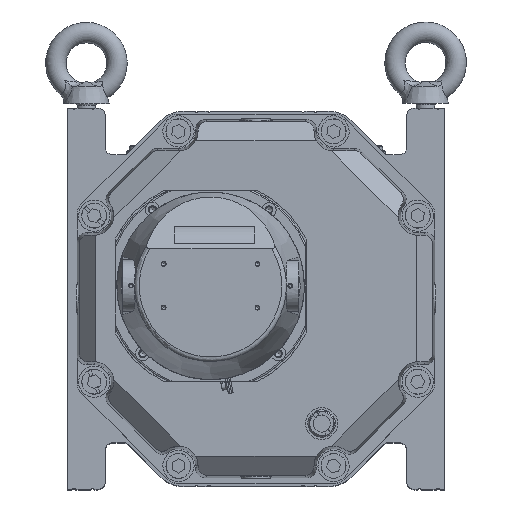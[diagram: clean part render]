
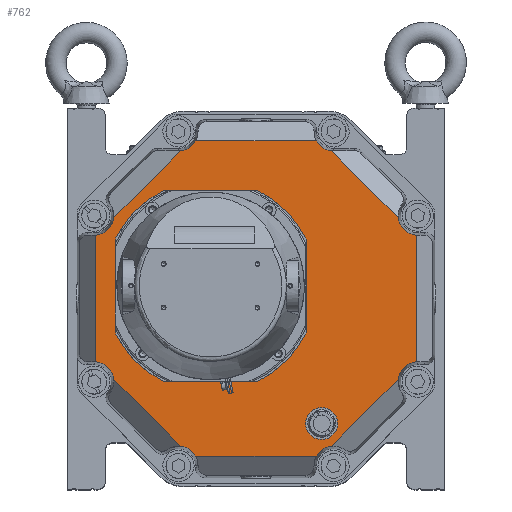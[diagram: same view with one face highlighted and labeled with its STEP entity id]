
A CAD part, top view. The second image highlights one B-rep face of the part: STEP entity #762.
In plain terms, the highlighted planar face has unit normal (0, 0, 1).
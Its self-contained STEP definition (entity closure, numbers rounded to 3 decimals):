
#762=ADVANCED_FACE('',(#14472,#14474,#14476),#14478,.T.);
#14472=FACE_BOUND('',#14473,.T.);
#14473=EDGE_LOOP('',(#32710,#32711,#32712,#32713,#32714,#32715,#32716,#32717,#32718,
#32719,#32720,#32721,#32722,#32723,#32724,#32725));
#14474=FACE_BOUND('',#14475,.T.);
#14475=EDGE_LOOP('',(#32726));
#14476=FACE_BOUND('',#14477,.T.);
#14477=EDGE_LOOP('',(#32727,#32728,#32729,#32730,#32731,#32732,#32733,#32734));
#14478=PLANE('',#14479);
#14479=AXIS2_PLACEMENT_3D('',#14480,#14481,#14482);
#14480=CARTESIAN_POINT('',(0.,0.,188.9));
#14481=DIRECTION('',(0.,0.,1.));
#14482=DIRECTION('',(0.,-1.,0.));
#32710=ORIENTED_EDGE('',*,*,#40564,.F.);
#32711=ORIENTED_EDGE('',*,*,#40565,.T.);
#32712=ORIENTED_EDGE('',*,*,#40566,.F.);
#32713=ORIENTED_EDGE('',*,*,#40567,.T.);
#32714=ORIENTED_EDGE('',*,*,#40568,.T.);
#32715=ORIENTED_EDGE('',*,*,#40569,.T.);
#32716=ORIENTED_EDGE('',*,*,#40570,.T.);
#32717=ORIENTED_EDGE('',*,*,#40571,.T.);
#32718=ORIENTED_EDGE('',*,*,#40572,.F.);
#32719=ORIENTED_EDGE('',*,*,#40573,.T.);
#32720=ORIENTED_EDGE('',*,*,#40574,.F.);
#32721=ORIENTED_EDGE('',*,*,#40575,.T.);
#32722=ORIENTED_EDGE('',*,*,#40576,.T.);
#32723=ORIENTED_EDGE('',*,*,#40577,.T.);
#32724=ORIENTED_EDGE('',*,*,#40578,.T.);
#32725=ORIENTED_EDGE('',*,*,#40579,.T.);
#32726=ORIENTED_EDGE('',*,*,#40580,.F.);
#32727=ORIENTED_EDGE('',*,*,#40428,.F.);
#32728=ORIENTED_EDGE('',*,*,#40558,.F.);
#32729=ORIENTED_EDGE('',*,*,#40556,.F.);
#32730=ORIENTED_EDGE('',*,*,#40554,.F.);
#32731=ORIENTED_EDGE('',*,*,#40552,.F.);
#32732=ORIENTED_EDGE('',*,*,#40550,.F.);
#32733=ORIENTED_EDGE('',*,*,#40424,.F.);
#32734=ORIENTED_EDGE('',*,*,#40559,.F.);
#40424=EDGE_CURVE('',#44038,#44040,#44041,.T.);
#40428=EDGE_CURVE('',#44044,#44046,#44047,.T.);
#40550=EDGE_CURVE('',#44040,#44250,#44251,.T.);
#40552=EDGE_CURVE('',#44250,#44253,#44254,.T.);
#40554=EDGE_CURVE('',#44253,#44256,#44257,.T.);
#40556=EDGE_CURVE('',#44256,#44259,#44260,.T.);
#40558=EDGE_CURVE('',#44259,#44044,#44262,.T.);
#40559=EDGE_CURVE('',#44046,#44038,#44263,.T.);
#40564=EDGE_CURVE('',#44272,#44273,#44274,.T.);
#40565=EDGE_CURVE('',#44272,#44275,#44276,.T.);
#40566=EDGE_CURVE('',#44277,#44275,#44278,.T.);
#40567=EDGE_CURVE('',#44277,#44279,#44280,.T.);
#40568=EDGE_CURVE('',#44279,#44281,#44282,.T.);
#40569=EDGE_CURVE('',#44281,#44283,#44284,.T.);
#40570=EDGE_CURVE('',#44283,#44285,#44286,.T.);
#40571=EDGE_CURVE('',#44285,#44287,#44288,.T.);
#40572=EDGE_CURVE('',#44289,#44287,#44290,.T.);
#40573=EDGE_CURVE('',#44289,#44291,#44292,.T.);
#40574=EDGE_CURVE('',#44293,#44291,#44294,.T.);
#40575=EDGE_CURVE('',#44293,#44295,#44296,.T.);
#40576=EDGE_CURVE('',#44295,#44297,#44298,.T.);
#40577=EDGE_CURVE('',#44297,#44299,#44300,.T.);
#40578=EDGE_CURVE('',#44299,#44301,#44302,.T.);
#40579=EDGE_CURVE('',#44301,#44273,#44303,.T.);
#40580=EDGE_CURVE('',#44304,#44304,#44305,.T.);
#44038=VERTEX_POINT('',#50559);
#44040=VERTEX_POINT('',#50563);
#44041=LINE('',#50564,#50565);
#44044=VERTEX_POINT('',#50573);
#44046=VERTEX_POINT('',#50577);
#44047=LINE('',#50578,#50579);
#44250=VERTEX_POINT('',#52849);
#44251=CIRCLE('',#52850,68.052);
#44253=VERTEX_POINT('',#52857);
#44254=LINE('',#52858,#52859);
#44256=VERTEX_POINT('',#52864);
#44257=CIRCLE('',#52865,68.052);
#44259=VERTEX_POINT('',#52872);
#44260=LINE('',#52873,#52874);
#44262=CIRCLE('',#52879,68.052);
#44263=CIRCLE('',#52883,68.052);
#44272=VERTEX_POINT('',#53311);
#44273=VERTEX_POINT('',#53312);
#44274=CIRCLE('',#53313,12.637);
#44275=VERTEX_POINT('',#53317);
#44276=LINE('',#53318,#53319);
#44277=VERTEX_POINT('',#53321);
#44278=CIRCLE('',#53322,12.637);
#44279=VERTEX_POINT('',#53326);
#44280=LINE('',#53327,#53328);
#44281=VERTEX_POINT('',#53330);
#44282=CIRCLE('',#53331,12.637);
#44283=VERTEX_POINT('',#53335);
#44284=LINE('',#53336,#53337);
#44285=VERTEX_POINT('',#53339);
#44286=CIRCLE('',#53340,12.637);
#44287=VERTEX_POINT('',#53344);
#44288=LINE('',#53345,#53346);
#44289=VERTEX_POINT('',#53348);
#44290=CIRCLE('',#53349,12.637);
#44291=VERTEX_POINT('',#53353);
#44292=LINE('',#53354,#53355);
#44293=VERTEX_POINT('',#53357);
#44294=CIRCLE('',#53358,12.637);
#44295=VERTEX_POINT('',#53362);
#44296=LINE('',#53363,#53364);
#44297=VERTEX_POINT('',#53366);
#44298=CIRCLE('',#53367,12.637);
#44299=VERTEX_POINT('',#53371);
#44300=LINE('',#53372,#53373);
#44301=VERTEX_POINT('',#53375);
#44302=CIRCLE('',#53376,12.637);
#44303=LINE('',#53380,#53381);
#44304=VERTEX_POINT('',#53383);
#44305=CIRCLE('',#53384,10.25);
#50559=CARTESIAN_POINT('',(-90.052,38.062,188.9));
#50563=CARTESIAN_POINT('',(-90.052,-22.062,188.9));
#50564=CARTESIAN_POINT('',(-90.052,38.062,188.9));
#50565=VECTOR('',#50566,1.);
#50566=DIRECTION('',(0.,-1.,0.));
#50573=CARTESIAN_POINT('',(1.062,69.052,188.9));
#50577=CARTESIAN_POINT('',(-59.062,69.052,188.9));
#50578=CARTESIAN_POINT('',(1.062,69.052,188.9));
#50579=VECTOR('',#50580,1.);
#50580=DIRECTION('',(-1.,0.,0.));
#52849=CARTESIAN_POINT('',(-59.062,-53.052,188.9));
#52850=AXIS2_PLACEMENT_3D('',#52851,#52852,#52853);
#52851=CARTESIAN_POINT('',(-29.,8.,188.9));
#52852=DIRECTION('',(0.,0.,1.));
#52853=DIRECTION('',(-0.897,-0.442,0.));
#52857=CARTESIAN_POINT('',(1.062,-53.052,188.9));
#52858=CARTESIAN_POINT('',(-59.062,-53.052,188.9));
#52859=VECTOR('',#52860,1.);
#52860=DIRECTION('',(1.,0.,0.));
#52864=CARTESIAN_POINT('',(32.052,-22.062,188.9));
#52865=AXIS2_PLACEMENT_3D('',#52866,#52867,#52868);
#52866=CARTESIAN_POINT('',(-29.,8.,188.9));
#52867=DIRECTION('',(0.,0.,1.));
#52868=DIRECTION('',(0.442,-0.897,0.));
#52872=CARTESIAN_POINT('',(32.052,38.062,188.9));
#52873=CARTESIAN_POINT('',(32.052,-22.062,188.9));
#52874=VECTOR('',#52875,1.);
#52875=DIRECTION('',(0.,1.,0.));
#52879=AXIS2_PLACEMENT_3D('',#52880,#52881,#52882);
#52880=CARTESIAN_POINT('',(-29.,8.,188.9));
#52881=DIRECTION('',(0.,0.,1.));
#52882=DIRECTION('',(0.897,0.442,0.));
#52883=AXIS2_PLACEMENT_3D('',#52884,#52885,#52886);
#52884=CARTESIAN_POINT('',(-29.,8.,188.9));
#52885=DIRECTION('',(0.,0.,1.));
#52886=DIRECTION('',(-0.442,0.897,0.));
#53311=CARTESIAN_POINT('',(-48.199,94.443,188.9));
#53312=CARTESIAN_POINT('',(-38.569,100.863,188.9));
#53313=AXIS2_PLACEMENT_3D('',#53314,#53315,#53316);
#53314=CARTESIAN_POINT('',(-49.615,107.,188.9));
#53315=DIRECTION('',(0.,0.,1.));
#53316=DIRECTION('',(0.112,-0.994,0.));
#53317=CARTESIAN_POINT('',(-90.943,51.699,188.9));
#53318=CARTESIAN_POINT('',(-48.199,94.443,188.9));
#53319=VECTOR('',#53320,1.);
#53320=DIRECTION('',(-0.707,-0.707,0.));
#53321=CARTESIAN_POINT('',(-102.863,40.495,188.9));
#53322=AXIS2_PLACEMENT_3D('',#53323,#53324,#53325);
#53323=CARTESIAN_POINT('',(-103.5,53.115,188.9));
#53324=DIRECTION('',(0.,0.,1.));
#53325=DIRECTION('',(0.05,-0.999,0.));
#53326=CARTESIAN_POINT('',(-102.863,-40.495,188.9));
#53327=CARTESIAN_POINT('',(-102.863,40.495,188.9));
#53328=VECTOR('',#53329,1.);
#53329=DIRECTION('',(0.,-1.,0.));
#53330=CARTESIAN_POINT('',(-90.943,-51.699,188.9));
#53331=AXIS2_PLACEMENT_3D('',#53332,#53333,#53334);
#53332=CARTESIAN_POINT('',(-103.5,-53.115,188.9));
#53333=DIRECTION('',(0.,0.,-1.));
#53334=DIRECTION('',(0.05,0.999,0.));
#53335=CARTESIAN_POINT('',(-48.199,-94.443,188.9));
#53336=CARTESIAN_POINT('',(-90.943,-51.699,188.9));
#53337=VECTOR('',#53338,1.);
#53338=DIRECTION('',(0.707,-0.707,0.));
#53339=CARTESIAN_POINT('',(-38.569,-100.863,188.9));
#53340=AXIS2_PLACEMENT_3D('',#53341,#53342,#53343);
#53341=CARTESIAN_POINT('',(-49.615,-107.,188.9));
#53342=DIRECTION('',(0.,0.,-1.));
#53343=DIRECTION('',(0.112,0.994,0.));
#53344=CARTESIAN_POINT('',(38.569,-100.863,188.9));
#53345=CARTESIAN_POINT('',(-38.569,-100.863,188.9));
#53346=VECTOR('',#53347,1.);
#53347=DIRECTION('',(1.,0.,0.));
#53348=CARTESIAN_POINT('',(48.199,-94.443,188.9));
#53349=AXIS2_PLACEMENT_3D('',#53350,#53351,#53352);
#53350=CARTESIAN_POINT('',(49.615,-107.,188.9));
#53351=DIRECTION('',(0.,0.,1.));
#53352=DIRECTION('',(-0.112,0.994,0.));
#53353=CARTESIAN_POINT('',(90.943,-51.699,188.9));
#53354=CARTESIAN_POINT('',(48.199,-94.443,188.9));
#53355=VECTOR('',#53356,1.);
#53356=DIRECTION('',(0.707,0.707,0.));
#53357=CARTESIAN_POINT('',(102.863,-40.495,188.9));
#53358=AXIS2_PLACEMENT_3D('',#53359,#53360,#53361);
#53359=CARTESIAN_POINT('',(103.5,-53.115,188.9));
#53360=DIRECTION('',(0.,0.,1.));
#53361=DIRECTION('',(-0.05,0.999,0.));
#53362=CARTESIAN_POINT('',(102.863,40.495,188.9));
#53363=CARTESIAN_POINT('',(102.863,-40.495,188.9));
#53364=VECTOR('',#53365,1.);
#53365=DIRECTION('',(0.,1.,0.));
#53366=CARTESIAN_POINT('',(90.943,51.699,188.9));
#53367=AXIS2_PLACEMENT_3D('',#53368,#53369,#53370);
#53368=CARTESIAN_POINT('',(103.5,53.115,188.9));
#53369=DIRECTION('',(0.,0.,-1.));
#53370=DIRECTION('',(-0.05,-0.999,0.));
#53371=CARTESIAN_POINT('',(48.199,94.443,188.9));
#53372=CARTESIAN_POINT('',(90.943,51.699,188.9));
#53373=VECTOR('',#53374,1.);
#53374=DIRECTION('',(-0.707,0.707,0.));
#53375=CARTESIAN_POINT('',(38.569,100.863,188.9));
#53376=AXIS2_PLACEMENT_3D('',#53377,#53378,#53379);
#53377=CARTESIAN_POINT('',(49.615,107.,188.9));
#53378=DIRECTION('',(0.,0.,-1.));
#53379=DIRECTION('',(-0.112,-0.994,0.));
#53380=CARTESIAN_POINT('',(38.569,100.863,188.9));
#53381=VECTOR('',#53382,1.);
#53382=DIRECTION('',(-1.,0.,0.));
#53383=CARTESIAN_POINT('',(42.,-90.25,188.9));
#53384=AXIS2_PLACEMENT_3D('',#53385,#53386,#53387);
#53385=CARTESIAN_POINT('',(42.,-80.,188.9));
#53386=DIRECTION('',(0.,0.,1.));
#53387=DIRECTION('',(0.,1.,0.));
